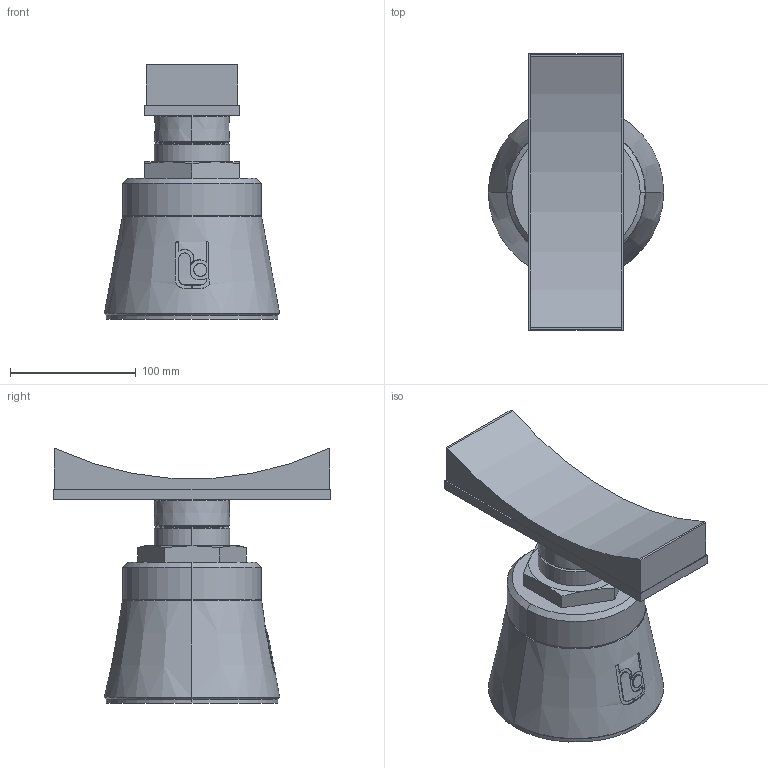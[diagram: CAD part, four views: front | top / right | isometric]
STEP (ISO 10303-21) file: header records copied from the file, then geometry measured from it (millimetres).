
FILE_DESCRIPTION(('STEP AP214'),'1');
FILE_NAME('RSRFS2_DN500.stp','2018-07-02T06:23:56',(' '),(' '),'Spatial InterOp 3D',' ',' ');
FILE_SCHEMA(('automotive_design'));
Length unit declared in the file: millimetre
Products named in the file (6): 1; 2; 3; 4; 5; 6
Bounding box: 139.44 x 220 x 202.03 mm (x, y, z)
Volume: 2128879.5 mm3; surface area: 234603.2 mm2
Topology: 6 solids, 6 shells, 127 faces, 313 edges, 202 vertices
Faces by surface type: plane 59, cylinder 37, cone 27, torus 4
Entity records: 5434 total; most frequent: CARTESIAN_POINT 1283, DIRECTION 639, ORIENTED_EDGE 626, EDGE_CURVE 313, AXIS2_PLACEMENT_3D 242, VERTEX_POINT 202, LINE 155, VECTOR 155
